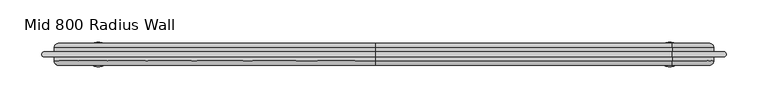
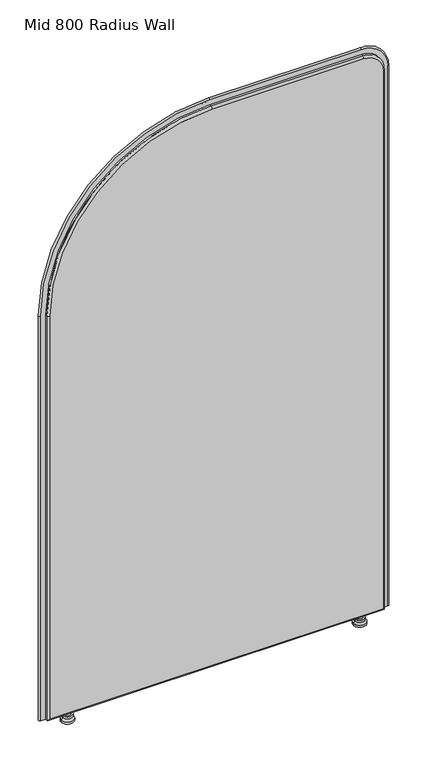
"""IFC4 building model written with IfcOpenShell, lengths in millimetres: furniture geometry, DBLTD_Sixteen3_PrivacyScreens_Artus_ArchRadius : Mid 800 Radius Wall."""

from ifc_helpers import new_model, si_unit, point, frame, origin, place, context, project, spatial, polyline, circle_curve, ellipse_curve, trimmed, source, transform, mapped, element, save
from ifc_brep_helpers import plane_surface, cylinder_surface, revolved_surface, advanced_brep


def mid_800_radius_wall_d383712f(model_context):
    return source(origin(), model_context, "Body", "AdvancedBrep", [
        advanced_brep(
        [(342.2938623, 820.0, 22.0), (349.2938623, 820.0, 22.0), (335.2938623, 820.0, 22.0), (349.2938623, 820.0, 15.0), (335.2938623, 820.0, 15.0), (353.744562, 820.0, 15.0), (330.8431626, 820.0, 15.0), (353.744562, 820.0, 10.0), (330.8431626, 820.0, 10.0), (357.2938623, 820.0, 5.0), (327.2938623, 820.0, 5.0), (357.2938623, 820.0, 0.0), (327.2938623, 820.0, 0.0), (342.2938623, 820.0, 0.0)],
        [
            (0, 1),
            (1, 2, circle_curve(frame((342.2938623, 820.0, 22.0), z_axis=(0.0, 0.0, 1.0), x_axis=(1.0, 0.0, 0.0)), 7.0)),
            (2, 0),
            (2, 1, circle_curve(frame((342.2938623, 820.0, 22.0), z_axis=(0.0, 0.0, 1.0), x_axis=(1.0, 0.0, 0.0)), 7.0)),
            (1, 3),
            (3, 4, circle_curve(frame((342.2938623, 820.0, 15.0), z_axis=(0.0, 0.0, 1.0), x_axis=(1.0, 0.0, 0.0)), 7.0)),
            (4, 2),
            (4, 3, circle_curve(frame((342.2938623, 820.0, 15.0), z_axis=(0.0, 0.0, 1.0), x_axis=(1.0, 0.0, 0.0)), 7.0)),
            (3, 5),
            (5, 6, circle_curve(frame((342.2938623, 820.0, 15.0), z_axis=(0.0, 0.0, 1.0), x_axis=(1.0, 0.0, 0.0)), 11.4506997)),
            (6, 4),
            (6, 5, circle_curve(frame((342.2938623, 820.0, 15.0), z_axis=(0.0, 0.0, 1.0), x_axis=(1.0, 0.0, 0.0)), 11.4506997)),
            (5, 7),
            (7, 8, circle_curve(frame((342.2938623, 820.0, 10.0), z_axis=(0.0, 0.0, 1.0), x_axis=(1.0, 0.0, 0.0)), 11.4506997)),
            (8, 6),
            (8, 7, circle_curve(frame((342.2938623, 820.0, 10.0), z_axis=(0.0, 0.0, 1.0), x_axis=(1.0, 0.0, 0.0)), 11.4506997)),
            (7, 9),
            (9, 10, circle_curve(frame((342.2938623, 820.0, 5.0), z_axis=(0.0, 0.0, 1.0), x_axis=(1.0, 0.0, 0.0)), 15.0)),
            (10, 8),
            (10, 9, circle_curve(frame((342.2938623, 820.0, 5.0), z_axis=(0.0, 0.0, 1.0), x_axis=(1.0, 0.0, 0.0)), 15.0)),
            (9, 11),
            (11, 12, circle_curve(frame((342.2938623, 820.0, 0.0), z_axis=(0.0, 0.0, 1.0), x_axis=(1.0, 0.0, 0.0)), 15.0)),
            (12, 10),
            (12, 11, circle_curve(frame((342.2938623, 820.0, 0.0), z_axis=(0.0, 0.0, 1.0), x_axis=(1.0, 0.0, 0.0)), 15.0)),
            (11, 13),
            (13, 12),
        ],
        [
            plane_surface(frame((342.2938623, 820.0, 22.0), z_axis=(0.0, 0.0, 1.0), x_axis=(1.0, 0.0, 0.0))),
            cylinder_surface(frame((342.2938623, 820.0, 5.0), z_axis=(0.0, 0.0, 1.0), x_axis=(1.0, 0.0, 0.0)), 7.0),
            plane_surface(frame((342.2938623, 820.0, 15.0), z_axis=(0.0, 0.0, 1.0), x_axis=(1.0, 0.0, 0.0))),
            cylinder_surface(frame((342.2938623, 820.0, 5.0), z_axis=(0.0, 0.0, 1.0), x_axis=(1.0, 0.0, 0.0)), 11.4506997),
            revolved_surface(polyline([(357.2938623, 820.0, 5.0), (353.744562, 820.0, 10.0)]), (342.2938623, 820.0, 5.0), (0.0, 0.0, 1.0)),
            cylinder_surface(frame((342.2938623, 820.0, 5.0), z_axis=(0.0, 0.0, 1.0), x_axis=(1.0, 0.0, 0.0)), 15.0),
            plane_surface(frame((342.2938623, 820.0, 0.0), z_axis=(0.0, 0.0, -1.0), x_axis=(1.0, 0.0, 0.0))),
        ],
        [
            (0, [[1, 2, 3]]),
            (0, [[-3, 4, -1]]),
            (1, [[-2, 5, 6, 7]]),
            (1, [[-4, -7, 8, -5]]),
            (2, [[-6, 9, 10, 11]]),
            (2, [[-8, -11, 12, -9]]),
            (3, [[-10, 13, 14, 15]]),
            (3, [[-12, -15, 16, -13]]),
            (4, [[-14, 17, 18, 19]]),
            (4, [[-16, -19, 20, -17]]),
            (5, [[-18, 21, 22, 23]]),
            (5, [[-20, -23, 24, -21]]),
            (6, [[-22, 25, 26]]),
            (6, [[-24, -26, -25]]),
        ],
    ),
        advanced_brep(
        [(-335.2938623, 820.0, 22.0), (-349.2938623, 820.0, 22.0), (-342.2938623, 820.0, 22.0), (-335.2938623, 820.0, 15.0), (-349.2938623, 820.0, 15.0), (-330.8431626, 820.0, 15.0), (-353.744562, 820.0, 15.0), (-330.8431626, 820.0, 10.0), (-353.744562, 820.0, 10.0), (-327.2938623, 820.0, 5.0), (-357.2938623, 820.0, 5.0), (-327.2938623, 820.0, 0.0), (-357.2938623, 820.0, 0.0), (-342.2938623, 820.0, 0.0)],
        [
            (0, 1, circle_curve(frame((-342.2938623, 820.0, 22.0), z_axis=(0.0, 0.0, 1.0), x_axis=(-1.0, 0.0, 0.0)), 7.0)),
            (1, 2),
            (2, 0),
            (1, 0, circle_curve(frame((-342.2938623, 820.0, 22.0), z_axis=(0.0, 0.0, 1.0), x_axis=(-1.0, 0.0, 0.0)), 7.0)),
            (3, 4, circle_curve(frame((-342.2938623, 820.0, 15.0), z_axis=(0.0, 0.0, 1.0), x_axis=(-1.0, 0.0, 0.0)), 7.0)),
            (4, 1),
            (0, 3),
            (4, 3, circle_curve(frame((-342.2938623, 820.0, 15.0), z_axis=(0.0, 0.0, 1.0), x_axis=(-1.0, 0.0, 0.0)), 7.0)),
            (5, 6, circle_curve(frame((-342.2938623, 820.0, 15.0), z_axis=(0.0, 0.0, 1.0), x_axis=(-1.0, 0.0, 0.0)), 11.4506997)),
            (6, 4),
            (3, 5),
            (6, 5, circle_curve(frame((-342.2938623, 820.0, 15.0), z_axis=(0.0, 0.0, 1.0), x_axis=(-1.0, 0.0, 0.0)), 11.4506997)),
            (7, 8, circle_curve(frame((-342.2938623, 820.0, 10.0), z_axis=(0.0, 0.0, 1.0), x_axis=(-1.0, 0.0, 0.0)), 11.4506997)),
            (8, 6),
            (5, 7),
            (8, 7, circle_curve(frame((-342.2938623, 820.0, 10.0), z_axis=(0.0, 0.0, 1.0), x_axis=(-1.0, 0.0, 0.0)), 11.4506997)),
            (9, 10, circle_curve(frame((-342.2938623, 820.0, 5.0), z_axis=(0.0, 0.0, 1.0), x_axis=(-1.0, 0.0, 0.0)), 15.0)),
            (10, 8),
            (7, 9),
            (10, 9, circle_curve(frame((-342.2938623, 820.0, 5.0), z_axis=(0.0, 0.0, 1.0), x_axis=(-1.0, 0.0, 0.0)), 15.0)),
            (11, 12, circle_curve(frame((-342.2938623, 820.0, 0.0), z_axis=(0.0, 0.0, 1.0), x_axis=(-1.0, 0.0, 0.0)), 15.0)),
            (12, 10),
            (9, 11),
            (12, 11, circle_curve(frame((-342.2938623, 820.0, 0.0), z_axis=(0.0, 0.0, 1.0), x_axis=(-1.0, 0.0, 0.0)), 15.0)),
            (13, 12),
            (11, 13),
        ],
        [
            plane_surface(frame((-342.2938623, 820.0, 22.0), z_axis=(0.0, 0.0, 1.0), x_axis=(-1.0, 0.0, 0.0))),
            cylinder_surface(frame((-342.2938623, 820.0, 5.0), z_axis=(0.0, 0.0, -1.0), x_axis=(-1.0, 0.0, 0.0)), 7.0),
            plane_surface(frame((-342.2938623, 820.0, 15.0), z_axis=(0.0, 0.0, 1.0), x_axis=(-1.0, 0.0, 0.0))),
            cylinder_surface(frame((-342.2938623, 820.0, 5.0), z_axis=(0.0, 0.0, -1.0), x_axis=(-1.0, 0.0, 0.0)), 11.4506997),
            revolved_surface(polyline([(-353.744562, 820.0, 10.0), (-357.2938623, 820.0, 5.0)]), (-342.2938623, 820.0, 5.0), (0.0, 0.0, -1.0)),
            cylinder_surface(frame((-342.2938623, 820.0, 5.0), z_axis=(0.0, 0.0, -1.0), x_axis=(-1.0, 0.0, 0.0)), 15.0),
            plane_surface(frame((-342.2938623, 820.0, 0.0), z_axis=(0.0, 0.0, -1.0), x_axis=(-1.0, 0.0, 0.0))),
        ],
        [
            (0, [[1, 2, 3]]),
            (0, [[4, -3, -2]]),
            (1, [[5, 6, -1, 7]]),
            (1, [[8, -7, -4, -6]]),
            (2, [[9, 10, -5, 11]]),
            (2, [[12, -11, -8, -10]]),
            (3, [[13, 14, -9, 15]]),
            (3, [[16, -15, -12, -14]]),
            (4, [[17, 18, -13, 19]]),
            (4, [[20, -19, -16, -18]]),
            (5, [[21, 22, -17, 23]]),
            (5, [[24, -23, -20, -22]]),
            (6, [[25, -21, 26]]),
            (6, [[-26, -24, -25]]),
        ],
    ),
        advanced_brep(
        [(-390.0, 807.0, 27.0), (390.0, 807.0, 27.0), (390.0, 807.0, 1360.0), (345.0, 807.0, 1405.0), (-10.0, 807.0, 1405.0), (-390.0, 807.0, 1025.0), (390.0, 833.0, 27.0), (-390.0, 833.0, 27.0), (-390.0, 833.0, 1025.0), (-10.0, 833.0, 1405.0), (345.0, 833.0, 1405.0), (390.0, 833.0, 1360.0), (345.0, 811.9999959, 1410.0), (345.0, 828.0, 1410.0), (-10.0, 828.0, 1410.0), (-10.0, 812.0, 1410.0), (-395.0, 828.0, 1025.0), (-395.0, 811.9999972, 1025.0), (-395.0, 828.0, 22.0), (-395.0, 812.0, 22.0), (395.0, 828.0, 22.0), (395.0, 812.0, 22.0), (395.0, 828.0, 1360.0), (395.0, 812.0, 1360.0)],
        [
            (0, 1),
            (1, 2),
            (2, 3, circle_curve(frame((345.0, 807.0, 1360.0), z_axis=(0.0, -1.0, 0.0), x_axis=(1.0, 0.0, 0.0)), 45.0)),
            (3, 4),
            (4, 5, circle_curve(frame((-10.0, 807.0, 1025.0), z_axis=(0.0, -1.0, 0.0), x_axis=(0.0, 0.0, 1.0)), 380.0)),
            (5, 0),
            (6, 7),
            (7, 8),
            (8, 9, circle_curve(frame((-10.0, 833.0, 1025.0), z_axis=(0.0, 1.0, 0.0), x_axis=(0.0, 0.0, 1.0)), 380.0)),
            (9, 10),
            (10, 11, circle_curve(frame((345.0, 833.0, 1360.0), z_axis=(0.0, 1.0, 0.0), x_axis=(1.0, 0.0, 0.0)), 45.0)),
            (11, 6),
            (12, 13),
            (13, 14),
            (14, 15),
            (15, 12),
            (14, 16, circle_curve(frame((-10.0, 828.0, 1025.0), z_axis=(0.0, -1.0, 0.0), x_axis=(1.0, 0.0, 0.0)), 385.0)),
            (16, 17),
            (17, 15, circle_curve(frame((-10.0, 812.0, 1025.0), z_axis=(0.0, 1.0, 0.0), x_axis=(1.0, 0.0, 0.0)), 385.0)),
            (16, 18),
            (18, 19),
            (19, 17),
            (18, 20),
            (20, 21),
            (21, 19),
            (20, 22),
            (22, 23),
            (23, 21),
            (12, 23, circle_curve(frame((345.0, 812.0, 1360.0), z_axis=(0.0, 1.0, 0.0), x_axis=(1.0, 0.0, 0.0)), 50.0)),
            (22, 13, circle_curve(frame((345.0, 828.0, 1360.0), z_axis=(0.0, -1.0, 0.0), x_axis=(1.0, 0.0, 0.0)), 50.0)),
            (21, 1, ellipse_curve(frame((390.0, 812.0, 27.0), z_axis=(-0.7071067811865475, 0.0, -0.7071067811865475), x_axis=(0.7071067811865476, 0.0, -0.7071067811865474)), 7.0710678, 5.0)),
            (0, 19, ellipse_curve(frame((-390.0, 812.0, 27.0), z_axis=(0.7071067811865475, 0.0, -0.7071067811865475), x_axis=(0.7071067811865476, 0.0, 0.7071067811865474)), 7.0710678, 5.0)),
            (6, 20, ellipse_curve(frame((390.0, 828.0, 27.0), z_axis=(-0.7071067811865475, 0.0, -0.7071067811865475), x_axis=(0.7071067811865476, 0.0, -0.7071067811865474)), 7.0710678, 5.0)),
            (18, 7, ellipse_curve(frame((-390.0, 828.0, 27.0), z_axis=(0.7071067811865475, 0.0, -0.7071067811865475), x_axis=(0.7071067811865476, 0.0, 0.7071067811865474)), 7.0710678, 5.0)),
            (23, 2, circle_curve(frame((390.0, 812.0, 1360.0), z_axis=(0.0, 0.0, -1.0), x_axis=(1.0, 0.0, 0.0)), 5.0)),
            (11, 22, circle_curve(frame((390.0, 828.0, 1360.0), z_axis=(0.0, 0.0, -1.0), x_axis=(1.0, 0.0, 0.0)), 5.0)),
            (12, 3, circle_curve(frame((345.0, 812.0, 1405.0), z_axis=(1.0, 0.0, 0.0), x_axis=(0.0, 0.0, 1.0)), 5.0)),
            (10, 13, circle_curve(frame((345.0, 828.0, 1405.0), z_axis=(1.0, 0.0, 0.0), x_axis=(0.0, 0.0, 1.0)), 5.0)),
            (15, 4, circle_curve(frame((-10.0, 812.0, 1405.0), z_axis=(1.0, 0.0, 0.0), x_axis=(0.0, 0.0, 1.0)), 5.0)),
            (9, 14, circle_curve(frame((-10.0, 828.0, 1405.0), z_axis=(1.0, 0.0, 0.0), x_axis=(0.0, 0.0, 1.0)), 5.0)),
            (17, 5, circle_curve(frame((-390.0, 812.0, 1025.0), z_axis=(0.0, 0.0, 1.0), x_axis=(-1.0, 0.0, 0.0)), 5.0)),
            (8, 16, circle_curve(frame((-390.0, 828.0, 1025.0), z_axis=(0.0, 0.0, 1.0), x_axis=(-1.0, 0.0, 0.0)), 5.0)),
        ],
        [
            plane_surface(frame((-10.0, 807.0, 1410.0), z_axis=(0.0, -1.0, 0.0), x_axis=(-1.0, 0.0, 0.0))),
            plane_surface(frame((-10.0, 833.0, 1410.0), z_axis=(0.0, 1.0, 0.0), x_axis=(1.0, 0.0, 0.0))),
            plane_surface(frame((345.0, 807.0, 1410.0), z_axis=(0.0, 0.0, 1.0), x_axis=(0.0, 1.0, 0.0))),
            cylinder_surface(frame((-10.0, 833.0, 1025.0), z_axis=(0.0, -1.0, 0.0), x_axis=(1.0, 0.0, 0.0)), 385.0),
            plane_surface(frame((-395.0, 807.0, 1025.0), z_axis=(-1.0, 0.0, 0.0), x_axis=(0.0, 1.0, 0.0))),
            plane_surface(frame((-395.0, 807.0, 22.0), z_axis=(0.0, 0.0, -1.0), x_axis=(0.0, 1.0, 0.0))),
            plane_surface(frame((395.0, 807.0, 22.0), z_axis=(1.0, 0.0, 0.0), x_axis=(0.0, 1.0, 0.0))),
            cylinder_surface(frame((345.0, 833.0, 1360.0), z_axis=(0.0, -1.0, 0.0), x_axis=(1.0, 0.0, 0.0)), 50.0),
            cylinder_surface(frame((-395.0, 812.0, 27.0), z_axis=(1.0, 0.0, 0.0), x_axis=(0.0, 0.0, -1.0)), 5.0),
            cylinder_surface(frame((-395.0, 828.0, 27.0), z_axis=(1.0, 0.0, 0.0), x_axis=(0.0, 0.0, -1.0)), 5.0),
            cylinder_surface(frame((390.0, 812.0, 22.0), z_axis=(0.0, 0.0, 1.0), x_axis=(1.0, 0.0, 0.0)), 5.0),
            cylinder_surface(frame((390.0, 828.0, 22.0), z_axis=(0.0, 0.0, 1.0), x_axis=(1.0, 0.0, 0.0)), 5.0),
            revolved_surface(trimmed(ellipse_curve(frame((390.0, 812.0, 1360.0), z_axis=(0.0, 0.0, -1.0), x_axis=(1.0, 0.0, 0.0)), 5.0, 5.0), [point((395.0, 812.0, 1360.0))], [point((390.0, 807.0, 1360.0))], True, "CARTESIAN"), (345.0, 807.0, 1360.0), (0.0, -1.0, 0.0)),
            revolved_surface(trimmed(ellipse_curve(frame((390.0, 828.0, 1360.0), z_axis=(0.0, 0.0, -1.0), x_axis=(1.0, 0.0, 0.0)), 5.0, 5.0), [point((390.0, 833.0, 1360.0))], [point((395.0, 828.0, 1360.0))], True, "CARTESIAN"), (345.0, 807.0, 1360.0), (0.0, -1.0, 0.0)),
            cylinder_surface(frame((345.0, 812.0, 1405.0), z_axis=(-1.0, 0.0, 0.0), x_axis=(0.0, 0.0, 1.0)), 5.0),
            cylinder_surface(frame((345.0, 828.0, 1405.0), z_axis=(-1.0, 0.0, 0.0), x_axis=(0.0, 0.0, 1.0)), 5.0),
            revolved_surface(trimmed(ellipse_curve(frame((-10.0, 812.0, 1405.0), z_axis=(1.0, 0.0, 0.0), x_axis=(0.0, 0.0, 1.0)), 5.0, 5.0), [point((-10.0, 812.0, 1410.0))], [point((-10.0, 807.0, 1405.0))], True, "CARTESIAN"), (-10.0, 807.0, 1025.0), (0.0, -1.0, 0.0)),
            revolved_surface(trimmed(ellipse_curve(frame((-10.0, 828.0, 1405.0), z_axis=(1.0, 0.0, 0.0), x_axis=(0.0, 0.0, 1.0)), 5.0, 5.0), [point((-10.0, 833.0, 1405.0))], [point((-10.0, 828.0, 1410.0))], True, "CARTESIAN"), (-10.0, 807.0, 1025.0), (0.0, -1.0, 0.0)),
            cylinder_surface(frame((-390.0, 812.0, 1025.0), z_axis=(0.0, 0.0, -1.0), x_axis=(-1.0, 0.0, 0.0)), 5.0),
            cylinder_surface(frame((-390.0, 828.0, 1025.0), z_axis=(0.0, 0.0, -1.0), x_axis=(-1.0, 0.0, 0.0)), 5.0),
        ],
        [
            (0, [[1, 2, 3, 4, 5, 6]]),
            (1, [[7, 8, 9, 10, 11, 12]]),
            (2, [[13, 14, 15, 16]]),
            (3, [[-15, 17, 18, 19]]),
            (4, [[-18, 20, 21, 22]]),
            (5, [[-21, 23, 24, 25]]),
            (6, [[-24, 26, 27, 28]]),
            (7, [[-13, 29, -27, 30]]),
            (8, [[31, -1, 32, -25]]),
            (9, [[33, -23, 34, -7]]),
            (10, [[-31, -28, 35, -2]]),
            (11, [[-33, -12, 36, -26]]),
            (12, [[-35, -29, 37, -3]]),
            (13, [[-36, -11, 38, -30]]),
            (14, [[-37, -16, 39, -4]]),
            (15, [[-38, -10, 40, -14]]),
            (16, [[-39, -19, 41, -5]]),
            (17, [[-40, -9, 42, -17]]),
            (18, [[-32, -6, -41, -22]]),
            (19, [[-34, -20, -42, -8]]),
        ],
    ),
        advanced_brep(
        [(406.9577057, 823.0, 22.0), (406.9577057, 817.0, 22.0), (395.0, 817.0, 22.0), (395.0, 823.0, 22.0), (406.9577057, 823.0, 1360.0), (406.9577057, 817.0, 1360.0), (345.0, 817.0, 1421.9577057), (-10.0, 817.0, 1421.9577057), (-406.9577057, 817.0, 1025.0), (-406.9577057, 817.0, 22.0), (-395.0, 817.0, 22.0), (-395.0, 817.0, 1025.0), (-10.0, 817.0, 1410.0), (345.0, 817.0, 1410.0), (395.0, 817.0, 1360.0), (395.0, 823.0, 1360.0), (345.0, 823.0, 1410.0), (-10.0, 823.0, 1410.0), (-395.0, 823.0, 1025.0), (-395.0, 823.0, 22.0), (-406.9577057, 823.0, 22.0), (-406.9577057, 823.0, 1025.0), (-10.0, 823.0, 1421.9577057), (345.0, 823.0, 1421.9577057)],
        [
            (0, 1, circle_curve(frame((406.9577057, 820.0, 22.0), z_axis=(0.0, 0.0, -1.0), x_axis=(1.0, 0.0, 0.0)), 3.0)),
            (1, 2),
            (2, 3),
            (3, 0),
            (0, 4),
            (4, 5, circle_curve(frame((406.9577057, 820.0, 1360.0), z_axis=(0.0, 0.0, -1.0), x_axis=(1.0, 0.0, 0.0)), 3.0)),
            (5, 1),
            (5, 6, circle_curve(frame((345.0, 817.0, 1360.0), z_axis=(0.0, -1.0, 0.0), x_axis=(1.0, 0.0, 0.0)), 61.9577057)),
            (6, 7),
            (7, 8, circle_curve(frame((-10.0, 817.0, 1025.0), z_axis=(0.0, -1.0, 0.0), x_axis=(0.0, 0.0, 1.0)), 396.9577057)),
            (8, 9),
            (9, 10),
            (10, 11),
            (11, 12, circle_curve(frame((-10.0, 817.0, 1025.0), z_axis=(0.0, 1.0, 0.0), x_axis=(0.0, 0.0, 1.0)), 385.0)),
            (12, 13),
            (13, 14, circle_curve(frame((345.0, 817.0, 1360.0), z_axis=(0.0, 1.0, 0.0), x_axis=(1.0, 0.0, 0.0)), 50.0)),
            (14, 2),
            (14, 15),
            (15, 3),
            (15, 16, circle_curve(frame((345.0, 823.0, 1360.0), z_axis=(0.0, -1.0, 0.0), x_axis=(1.0, 0.0, 0.0)), 50.0)),
            (16, 17),
            (17, 18, circle_curve(frame((-10.0, 823.0, 1025.0), z_axis=(0.0, -1.0, 0.0), x_axis=(0.0, 0.0, 1.0)), 385.0)),
            (18, 19),
            (19, 20),
            (20, 21),
            (21, 22, circle_curve(frame((-10.0, 823.0, 1025.0), z_axis=(0.0, 1.0, 0.0), x_axis=(0.0, 0.0, 1.0)), 396.9577057)),
            (22, 23),
            (23, 4, circle_curve(frame((345.0, 823.0, 1360.0), z_axis=(0.0, 1.0, 0.0), x_axis=(1.0, 0.0, 0.0)), 61.9577057)),
            (23, 6, circle_curve(frame((345.0, 820.0, 1421.9577057), z_axis=(1.0, 0.0, 0.0), x_axis=(0.0, 0.0, 1.0)), 3.0)),
            (13, 16),
            (22, 7, circle_curve(frame((-10.0, 820.0, 1421.9577057), z_axis=(1.0, 0.0, 0.0), x_axis=(0.0, 0.0, 1.0)), 3.0)),
            (12, 17),
            (21, 8, circle_curve(frame((-406.9577057, 820.0, 1025.0), z_axis=(0.0, 0.0, 1.0), x_axis=(-1.0, 0.0, 0.0)), 3.0)),
            (11, 18),
            (19, 10),
            (9, 20, circle_curve(frame((-406.9577057, 820.0, 22.0), z_axis=(0.0, 0.0, -1.0), x_axis=(-1.0, 0.0, 0.0)), 3.0)),
        ],
        [
            plane_surface(frame((395.0, 807.0, 22.0), z_axis=(0.0, 0.0, -1.0), x_axis=(1.0, 0.0, 0.0))),
            cylinder_surface(frame((406.9577057, 820.0, 22.0), z_axis=(0.0, 0.0, -1.0), x_axis=(1.0, 0.0, 0.0)), 3.0),
            plane_surface(frame((406.9577057, 817.0, 22.0), z_axis=(0.0, -1.0, 0.0), x_axis=(0.0, 0.0, 1.0))),
            plane_surface(frame((395.0, 817.0, 22.0), z_axis=(-1.0, 0.0, 0.0), x_axis=(0.0, 0.0, 1.0))),
            plane_surface(frame((395.0, 823.0, 22.0), z_axis=(0.0, 1.0, 0.0), x_axis=(0.0, 0.0, 1.0))),
            revolved_surface(trimmed(ellipse_curve(frame((406.9577057, 820.0, 1360.0), z_axis=(0.0, 0.0, -1.0), x_axis=(1.0, 0.0, 0.0)), 3.0, 3.0), [point((406.9577057, 823.0, 1360.0))], [point((406.9577057, 817.0, 1360.0))], True, "CARTESIAN"), (345.0, 807.0, 1360.0), (0.0, -1.0, 0.0)),
            revolved_surface(polyline([(395.0, 817.0, 1360.0), (395.0, 823.0, 1360.0)]), (345.0, 807.0, 1360.0), (0.0, -1.0, 0.0)),
            cylinder_surface(frame((345.0, 820.0, 1421.9577057), z_axis=(1.0, 0.0, 0.0), x_axis=(0.0, 0.0, 1.0)), 3.0),
            plane_surface(frame((345.0, 817.0, 1410.0), z_axis=(0.0, 0.0, -1.0), x_axis=(-1.0, 0.0, 0.0))),
            revolved_surface(trimmed(ellipse_curve(frame((-10.0, 820.0, 1421.9577057), z_axis=(1.0, 0.0, 0.0), x_axis=(0.0, 0.0, 1.0)), 3.0, 3.0), [point((-10.0, 823.0, 1421.9577057))], [point((-10.0, 817.0, 1421.9577057))], True, "CARTESIAN"), (-10.0, 807.0, 1025.0), (0.0, -1.0, 0.0)),
            revolved_surface(polyline([(-10.0, 817.0, 1410.0), (-10.0, 823.0, 1410.0)]), (-10.0, 807.0, 1025.0), (0.0, -1.0, 0.0)),
            plane_surface(frame((-395.0, 807.0, 22.0), z_axis=(0.0, 0.0, -1.0), x_axis=(-1.0, 0.0, 0.0))),
            cylinder_surface(frame((-406.9577057, 820.0, 1025.0), z_axis=(0.0, 0.0, 1.0), x_axis=(-1.0, 0.0, 0.0)), 3.0),
            plane_surface(frame((-395.0, 817.0, 1025.0), z_axis=(1.0, 0.0, 0.0), x_axis=(0.0, 0.0, -1.0))),
        ],
        [
            (0, [[1, 2, 3, 4]]),
            (1, [[-1, 5, 6, 7]]),
            (2, [[-2, -7, 8, 9, 10, 11, 12, 13, 14, 15, 16, 17]]),
            (3, [[-3, -17, 18, 19]]),
            (4, [[-4, -19, 20, 21, 22, 23, 24, 25, 26, 27, 28, -5]]),
            (5, [[-8, -6, -28, 29]]),
            (6, [[-20, -18, -16, 30]]),
            (7, [[-29, -27, 31, -9]]),
            (8, [[-30, -15, 32, -21]]),
            (9, [[-10, -31, -26, 33]]),
            (10, [[-22, -32, -14, 34]]),
            (11, [[-24, 35, -12, 36]]),
            (12, [[-33, -25, -36, -11]]),
            (13, [[-34, -13, -35, -23]]),
        ],
    ),
    ])


if __name__ == "__main__":
    model = new_model("IFC4")
    model_context = context("Model", 3, world=origin())
    ifc_project = project(units=[si_unit("LENGTHUNIT", "METRE", prefix="MILLI")], contexts=[model_context])
    site = spatial("IfcSite", under=ifc_project)
    building = spatial("IfcBuilding", under=site)
    placement = place(None, origin())
    mid_800_radius_wall_shape = mid_800_radius_wall_d383712f(model_context)
    element("IfcFurniture", 1, ObjectType="DBLTD_Sixteen3_PrivacyScreens_Artus_ArchRadius : Mid 800 Radius Wall", at=placement, inside=building, context=model_context, shape_type="MappedRepresentation", body=[
        mapped(mid_800_radius_wall_shape, transform((0.0, 0.0, 0.0), x_axis=(1.0, 0.0, 0.0), y_axis=(0.0, 1.0, 0.0), z_axis=(0.0, 0.0, 1.0))),
    ])
    save(model, "model.ifc")
